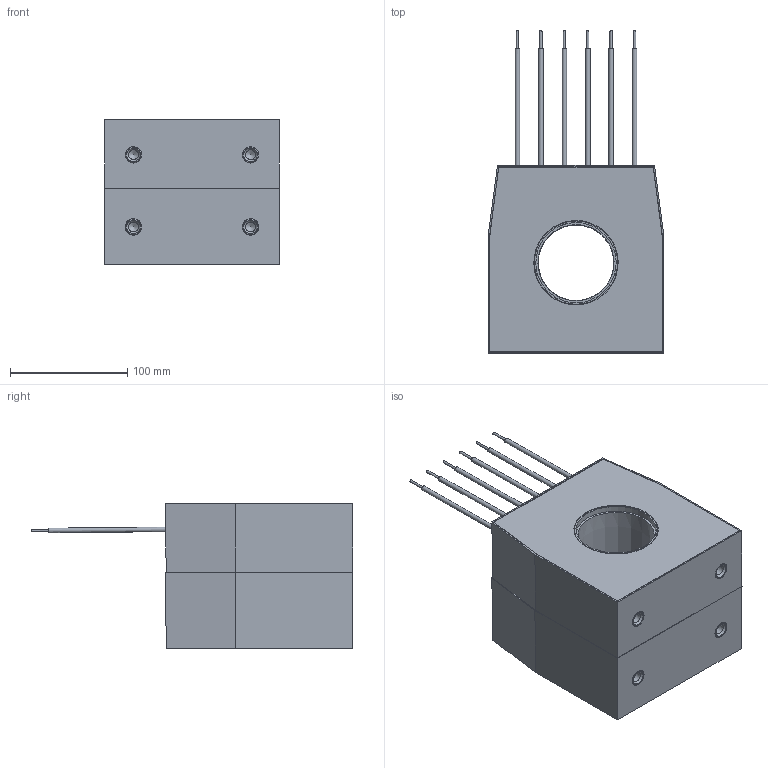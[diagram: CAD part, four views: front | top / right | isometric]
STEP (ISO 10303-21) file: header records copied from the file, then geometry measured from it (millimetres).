
FILE_DESCRIPTION(('STEP AP203'), '1');
FILE_NAME('ÒØÏ-ÍÒÇ-0,66-82Ñ (65 ìì, 2-é ãàáàðèò)', '2025-08-27T09:45:29', ('UNSPECIFIED'), ('UNSPECIFIED'), 'ASCON STEP Converter 1.3', 'ASCON Math Kernel', '');
FILE_SCHEMA(('CONFIG_CONTROL_DESIGN'));
Length unit declared in the file: millimetre
Assembly tree (15 placements, depth 2):
  (unnamed)
    (unnamed)
    (unnamed)
    (unnamed)  x2
    (unnamed)  x4
    (unnamed)
    (unnamed)  x6
Bounding box: 150 x 274.82 x 123.5 mm (x, y, z)
Volume: 496972.4 mm3; surface area: 314626 mm2
Topology: 15 solids, 15 shells, 199 faces, 415 edges, 267 vertices
Faces by surface type: plane 116, cylinder 53, cone 22, torus 8
Full cylindrical faces by diameter (mm): 2 x6, 3.9 x6, 4 x5, 6 x4, 8.376 x4, 14 x8, 17 x4, 65 x1, 65.05 x1, 68.599 x4, 68.6 x1, 71 x1
Entity records: 5277 total; most frequent: CARTESIAN_POINT 665, DIRECTION 628, ORIENTED_EDGE 550, EDGE_CURVE 275, AXIS2_PLACEMENT_3D 214, VERTEX_POINT 202, EDGE_LOOP 201, LINE 200
